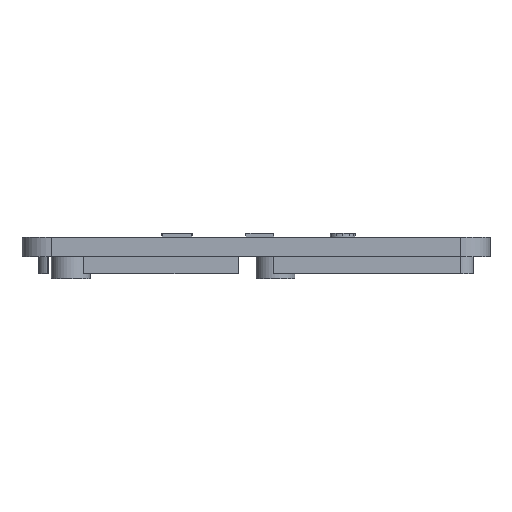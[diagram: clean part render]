
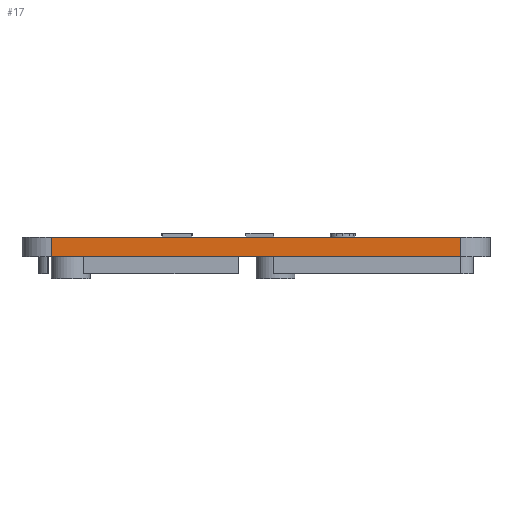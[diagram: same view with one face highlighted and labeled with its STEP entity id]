
A CAD part, left-side view. The second image highlights one B-rep face of the part: STEP entity #17.
In plain terms, the highlighted planar face has unit normal (-1, 0, 0).
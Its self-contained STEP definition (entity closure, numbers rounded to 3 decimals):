
#17 = ADVANCED_FACE('',(#18),#32,.F.);
#18 = FACE_BOUND('',#19,.F.);
#19 = EDGE_LOOP('',(#20,#55,#83,#111));
#20 = ORIENTED_EDGE('',*,*,#21,.F.);
#21 = EDGE_CURVE('',#22,#24,#26,.T.);
#22 = VERTEX_POINT('',#23);
#23 = CARTESIAN_POINT('',(-73.,-42.,4.));
#24 = VERTEX_POINT('',#25);
#25 = CARTESIAN_POINT('',(-73.,42.,4.));
#26 = SURFACE_CURVE('',#27,(#31,#43),.PCURVE_S1.);
#27 = LINE('',#28,#29);
#28 = CARTESIAN_POINT('',(-73.,-48.,4.));
#29 = VECTOR('',#30,1.);
#30 = DIRECTION('',(0.,1.,0.));
#31 = PCURVE('',#32,#37);
#32 = PLANE('',#33);
#33 = AXIS2_PLACEMENT_3D('',#34,#35,#36);
#34 = CARTESIAN_POINT('',(-73.,-48.,0.));
#35 = DIRECTION('',(1.,0.,0.));
#36 = DIRECTION('',(0.,0.,1.));
#37 = DEFINITIONAL_REPRESENTATION('',(#38),#42);
#38 = LINE('',#39,#40);
#39 = CARTESIAN_POINT('',(4.,0.));
#40 = VECTOR('',#41,1.);
#41 = DIRECTION('',(0.,-1.));
#42 = ( GEOMETRIC_REPRESENTATION_CONTEXT(2) 
PARAMETRIC_REPRESENTATION_CONTEXT() REPRESENTATION_CONTEXT('2D SPACE',''
  ) );
#43 = PCURVE('',#44,#49);
#44 = PLANE('',#45);
#45 = AXIS2_PLACEMENT_3D('',#46,#47,#48);
#46 = CARTESIAN_POINT('',(-73.,-48.,4.));
#47 = DIRECTION('',(0.,0.,1.));
#48 = DIRECTION('',(1.,0.,0.));
#49 = DEFINITIONAL_REPRESENTATION('',(#50),#54);
#50 = LINE('',#51,#52);
#51 = CARTESIAN_POINT('',(0.,0.));
#52 = VECTOR('',#53,1.);
#53 = DIRECTION('',(0.,1.));
#54 = ( GEOMETRIC_REPRESENTATION_CONTEXT(2) 
PARAMETRIC_REPRESENTATION_CONTEXT() REPRESENTATION_CONTEXT('2D SPACE',''
  ) );
#55 = ORIENTED_EDGE('',*,*,#56,.F.);
#56 = EDGE_CURVE('',#57,#22,#59,.T.);
#57 = VERTEX_POINT('',#58);
#58 = CARTESIAN_POINT('',(-73.,-42.,0.));
#59 = SURFACE_CURVE('',#60,(#64,#71),.PCURVE_S1.);
#60 = LINE('',#61,#62);
#61 = CARTESIAN_POINT('',(-73.,-42.,0.));
#62 = VECTOR('',#63,1.);
#63 = DIRECTION('',(0.,0.,1.));
#64 = PCURVE('',#32,#65);
#65 = DEFINITIONAL_REPRESENTATION('',(#66),#70);
#66 = LINE('',#67,#68);
#67 = CARTESIAN_POINT('',(0.,-6.));
#68 = VECTOR('',#69,1.);
#69 = DIRECTION('',(1.,0.));
#70 = ( GEOMETRIC_REPRESENTATION_CONTEXT(2) 
PARAMETRIC_REPRESENTATION_CONTEXT() REPRESENTATION_CONTEXT('2D SPACE',''
  ) );
#71 = PCURVE('',#72,#77);
#72 = CYLINDRICAL_SURFACE('',#73,6.);
#73 = AXIS2_PLACEMENT_3D('',#74,#75,#76);
#74 = CARTESIAN_POINT('',(-67.,-42.,0.));
#75 = DIRECTION('',(0.,0.,1.));
#76 = DIRECTION('',(-1.,-0.,0.));
#77 = DEFINITIONAL_REPRESENTATION('',(#78),#82);
#78 = LINE('',#79,#80);
#79 = CARTESIAN_POINT('',(0.,0.));
#80 = VECTOR('',#81,1.);
#81 = DIRECTION('',(0.,1.));
#82 = ( GEOMETRIC_REPRESENTATION_CONTEXT(2) 
PARAMETRIC_REPRESENTATION_CONTEXT() REPRESENTATION_CONTEXT('2D SPACE',''
  ) );
#83 = ORIENTED_EDGE('',*,*,#84,.T.);
#84 = EDGE_CURVE('',#57,#85,#87,.T.);
#85 = VERTEX_POINT('',#86);
#86 = CARTESIAN_POINT('',(-73.,42.,0.));
#87 = SURFACE_CURVE('',#88,(#92,#99),.PCURVE_S1.);
#88 = LINE('',#89,#90);
#89 = CARTESIAN_POINT('',(-73.,-48.,0.));
#90 = VECTOR('',#91,1.);
#91 = DIRECTION('',(0.,1.,0.));
#92 = PCURVE('',#32,#93);
#93 = DEFINITIONAL_REPRESENTATION('',(#94),#98);
#94 = LINE('',#95,#96);
#95 = CARTESIAN_POINT('',(0.,0.));
#96 = VECTOR('',#97,1.);
#97 = DIRECTION('',(0.,-1.));
#98 = ( GEOMETRIC_REPRESENTATION_CONTEXT(2) 
PARAMETRIC_REPRESENTATION_CONTEXT() REPRESENTATION_CONTEXT('2D SPACE',''
  ) );
#99 = PCURVE('',#100,#105);
#100 = PLANE('',#101);
#101 = AXIS2_PLACEMENT_3D('',#102,#103,#104);
#102 = CARTESIAN_POINT('',(-73.,-48.,0.));
#103 = DIRECTION('',(0.,0.,1.));
#104 = DIRECTION('',(1.,0.,0.));
#105 = DEFINITIONAL_REPRESENTATION('',(#106),#110);
#106 = LINE('',#107,#108);
#107 = CARTESIAN_POINT('',(0.,0.));
#108 = VECTOR('',#109,1.);
#109 = DIRECTION('',(0.,1.));
#110 = ( GEOMETRIC_REPRESENTATION_CONTEXT(2) 
PARAMETRIC_REPRESENTATION_CONTEXT() REPRESENTATION_CONTEXT('2D SPACE',''
  ) );
#111 = ORIENTED_EDGE('',*,*,#112,.T.);
#112 = EDGE_CURVE('',#85,#24,#113,.T.);
#113 = SURFACE_CURVE('',#114,(#118,#125),.PCURVE_S1.);
#114 = LINE('',#115,#116);
#115 = CARTESIAN_POINT('',(-73.,42.,0.));
#116 = VECTOR('',#117,1.);
#117 = DIRECTION('',(0.,0.,1.));
#118 = PCURVE('',#32,#119);
#119 = DEFINITIONAL_REPRESENTATION('',(#120),#124);
#120 = LINE('',#121,#122);
#121 = CARTESIAN_POINT('',(0.,-90.));
#122 = VECTOR('',#123,1.);
#123 = DIRECTION('',(1.,0.));
#124 = ( GEOMETRIC_REPRESENTATION_CONTEXT(2) 
PARAMETRIC_REPRESENTATION_CONTEXT() REPRESENTATION_CONTEXT('2D SPACE',''
  ) );
#125 = PCURVE('',#126,#131);
#126 = CYLINDRICAL_SURFACE('',#127,6.);
#127 = AXIS2_PLACEMENT_3D('',#128,#129,#130);
#128 = CARTESIAN_POINT('',(-67.,42.,0.));
#129 = DIRECTION('',(0.,0.,1.));
#130 = DIRECTION('',(-1.,-0.,0.));
#131 = DEFINITIONAL_REPRESENTATION('',(#132),#136);
#132 = LINE('',#133,#134);
#133 = CARTESIAN_POINT('',(-0.,0.));
#134 = VECTOR('',#135,1.);
#135 = DIRECTION('',(-0.,1.));
#136 = ( GEOMETRIC_REPRESENTATION_CONTEXT(2) 
PARAMETRIC_REPRESENTATION_CONTEXT() REPRESENTATION_CONTEXT('2D SPACE',''
  ) );
